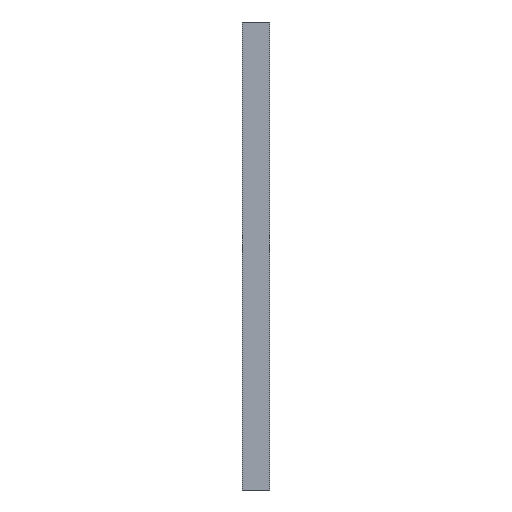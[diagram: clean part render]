
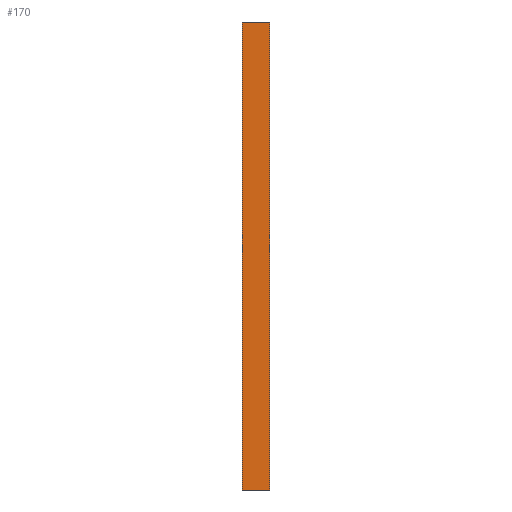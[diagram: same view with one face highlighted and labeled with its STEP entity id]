
A CAD part, left-side view. The second image highlights one B-rep face of the part: STEP entity #170.
In plain terms, the highlighted planar face has unit normal (-1, 0, 0).
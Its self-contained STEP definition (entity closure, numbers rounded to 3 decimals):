
#2 = CARTESIAN_POINT ( 'NONE',  ( -5.25, -15., 0. ) ) ;
#6 = CARTESIAN_POINT ( 'NONE',  ( -5.25, 15., -517.1 ) ) ;
#25 = CARTESIAN_POINT ( 'NONE',  ( -5.25, -15., -517.1 ) ) ;
#28 = LINE ( 'NONE', #316, #29 ) ;
#29 = VECTOR ( 'NONE', #314, 1000. ) ;
#40 = EDGE_CURVE ( 'NONE', #266, #292, #139, .T. ) ;
#42 = EDGE_CURVE ( 'NONE', #305, #266, #148, .T. ) ;
#49 = EDGE_CURVE ( 'NONE', #305, #301, #147, .T. ) ;
#52 = AXIS2_PLACEMENT_3D ( 'NONE', #269, #260, #259 ) ;
#55 = EDGE_CURVE ( 'NONE', #301, #292, #28, .T. ) ;
#119 = ORIENTED_EDGE ( 'NONE', *, *, #55, .T. ) ;
#120 = ORIENTED_EDGE ( 'NONE', *, *, #49, .T. ) ;
#121 = ORIENTED_EDGE ( 'NONE', *, *, #42, .F. ) ;
#125 = ORIENTED_EDGE ( 'NONE', *, *, #40, .F. ) ;
#138 = EDGE_LOOP ( 'NONE', ( #125, #121, #120, #119 ) ) ;
#139 = LINE ( 'NONE', #247, #144 ) ;
#144 = VECTOR ( 'NONE', #239, 1000. ) ;
#147 = LINE ( 'NONE', #329, #156 ) ;
#148 = LINE ( 'NONE', #224, #149 ) ;
#149 = VECTOR ( 'NONE', #218, 1000. ) ;
#156 = VECTOR ( 'NONE', #326, 1000. ) ;
#170 = ADVANCED_FACE ( 'NONE', ( #200 ), #273, .T. ) ;
#200 = FACE_OUTER_BOUND ( 'NONE', #138, .T. ) ;
#218 = DIRECTION ( 'NONE',  ( 0., 0., 1. ) ) ;
#220 = CARTESIAN_POINT ( 'NONE',  ( -5.25, 15., 0. ) ) ;
#224 = CARTESIAN_POINT ( 'NONE',  ( -5.25, 15., -517.1 ) ) ;
#239 = DIRECTION ( 'NONE',  ( 0., -1., 0. ) ) ;
#247 = CARTESIAN_POINT ( 'NONE',  ( -5.25, -15., 0. ) ) ;
#259 = DIRECTION ( 'NONE',  ( 0., 0., 1. ) ) ;
#260 = DIRECTION ( 'NONE',  ( -1., 0., 0. ) ) ;
#266 = VERTEX_POINT ( 'NONE', #220 ) ;
#269 = CARTESIAN_POINT ( 'NONE',  ( -5.25, -15., -517.1 ) ) ;
#273 = PLANE ( 'NONE',  #52 ) ;
#292 = VERTEX_POINT ( 'NONE', #2 ) ;
#301 = VERTEX_POINT ( 'NONE', #25 ) ;
#305 = VERTEX_POINT ( 'NONE', #6 ) ;
#314 = DIRECTION ( 'NONE',  ( 0., 0., 1. ) ) ;
#316 = CARTESIAN_POINT ( 'NONE',  ( -5.25, -15., -517.1 ) ) ;
#326 = DIRECTION ( 'NONE',  ( 0., -1., 0. ) ) ;
#329 = CARTESIAN_POINT ( 'NONE',  ( -5.25, -15., -517.1 ) ) ;
